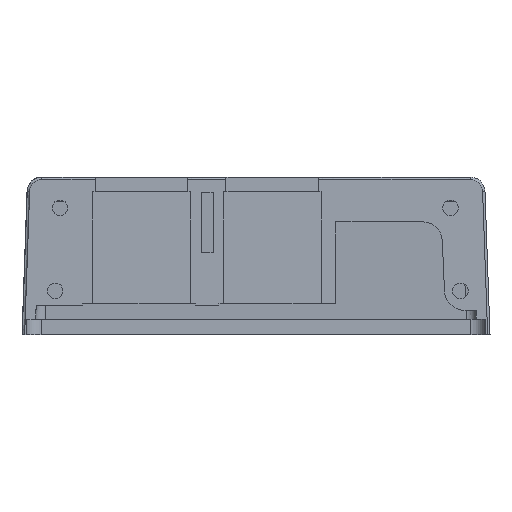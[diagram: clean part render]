
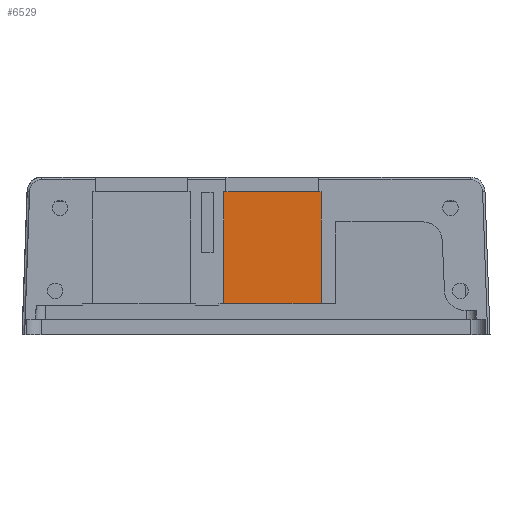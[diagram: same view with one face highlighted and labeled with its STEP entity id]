
A CAD part, left-side view. The second image highlights one B-rep face of the part: STEP entity #6529.
In plain terms, the highlighted planar face has unit normal (-1, 0, 0).
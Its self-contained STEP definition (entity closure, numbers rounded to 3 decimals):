
#722 = PLANE('',#723);
#723 = AXIS2_PLACEMENT_3D('',#724,#725,#726);
#724 = CARTESIAN_POINT('',(252.661,217.902,25.4));
#725 = DIRECTION('',(0.,0.,1.));
#726 = DIRECTION('',(1.,0.,0.));
#2483 = VERTEX_POINT('',#2484);
#2484 = CARTESIAN_POINT('',(319.,214.5,25.4));
#2498 = PLANE('',#2499);
#2499 = AXIS2_PLACEMENT_3D('',#2500,#2501,#2502);
#2500 = CARTESIAN_POINT('',(319.,214.5,51.));
#2501 = DIRECTION('',(0.,1.,0.));
#2502 = DIRECTION('',(-1.,0.,0.));
#2510 = EDGE_CURVE('',#2483,#2511,#2513,.T.);
#2511 = VERTEX_POINT('',#2512);
#2512 = CARTESIAN_POINT('',(319.,194.5,25.4));
#2513 = SURFACE_CURVE('',#2514,(#2518,#2525),.PCURVE_S1.);
#2514 = LINE('',#2515,#2516);
#2515 = CARTESIAN_POINT('',(319.,214.5,25.4));
#2516 = VECTOR('',#2517,1.);
#2517 = DIRECTION('',(0.,-1.,0.));
#2518 = PCURVE('',#722,#2519);
#2519 = DEFINITIONAL_REPRESENTATION('',(#2520),#2524);
#2520 = LINE('',#2521,#2522);
#2521 = CARTESIAN_POINT('',(66.339,-3.402));
#2522 = VECTOR('',#2523,1.);
#2523 = DIRECTION('',(0.,-1.));
#2524 = ( GEOMETRIC_REPRESENTATION_CONTEXT(2) 
PARAMETRIC_REPRESENTATION_CONTEXT() REPRESENTATION_CONTEXT('2D SPACE',''
  ) );
#2525 = PCURVE('',#2526,#2531);
#2526 = PLANE('',#2527);
#2527 = AXIS2_PLACEMENT_3D('',#2528,#2529,#2530);
#2528 = CARTESIAN_POINT('',(319.,214.5,51.));
#2529 = DIRECTION('',(-1.,0.,0.));
#2530 = DIRECTION('',(0.,-1.,0.));
#2531 = DEFINITIONAL_REPRESENTATION('',(#2532),#2536);
#2532 = LINE('',#2533,#2534);
#2533 = CARTESIAN_POINT('',(0.,-25.6));
#2534 = VECTOR('',#2535,1.);
#2535 = DIRECTION('',(1.,0.));
#2536 = ( GEOMETRIC_REPRESENTATION_CONTEXT(2) 
PARAMETRIC_REPRESENTATION_CONTEXT() REPRESENTATION_CONTEXT('2D SPACE',''
  ) );
#2554 = PLANE('',#2555);
#2555 = AXIS2_PLACEMENT_3D('',#2556,#2557,#2558);
#2556 = CARTESIAN_POINT('',(169.,194.5,51.));
#2557 = DIRECTION('',(0.,-1.,0.));
#2558 = DIRECTION('',(1.,0.,0.));
#4929 = PLANE('',#4930);
#4930 = AXIS2_PLACEMENT_3D('',#4931,#4932,#4933);
#4931 = CARTESIAN_POINT('',(2.,251.653,48.3));
#4932 = DIRECTION('',(0.,0.,1.));
#4933 = DIRECTION('',(0.968,-0.252,0.));
#6485 = VERTEX_POINT('',#6486);
#6486 = CARTESIAN_POINT('',(319.,194.5,48.3));
#6509 = EDGE_CURVE('',#6485,#2511,#6510,.T.);
#6510 = SURFACE_CURVE('',#6511,(#6515,#6522),.PCURVE_S1.);
#6511 = LINE('',#6512,#6513);
#6512 = CARTESIAN_POINT('',(319.,194.5,51.));
#6513 = VECTOR('',#6514,1.);
#6514 = DIRECTION('',(-0.,-0.,-1.));
#6515 = PCURVE('',#2554,#6516);
#6516 = DEFINITIONAL_REPRESENTATION('',(#6517),#6521);
#6517 = LINE('',#6518,#6519);
#6518 = CARTESIAN_POINT('',(150.,0.));
#6519 = VECTOR('',#6520,1.);
#6520 = DIRECTION('',(0.,-1.));
#6521 = ( GEOMETRIC_REPRESENTATION_CONTEXT(2) 
PARAMETRIC_REPRESENTATION_CONTEXT() REPRESENTATION_CONTEXT('2D SPACE',''
  ) );
#6522 = PCURVE('',#2526,#6523);
#6523 = DEFINITIONAL_REPRESENTATION('',(#6524),#6528);
#6524 = LINE('',#6525,#6526);
#6525 = CARTESIAN_POINT('',(20.,0.));
#6526 = VECTOR('',#6527,1.);
#6527 = DIRECTION('',(0.,-1.));
#6528 = ( GEOMETRIC_REPRESENTATION_CONTEXT(2) 
PARAMETRIC_REPRESENTATION_CONTEXT() REPRESENTATION_CONTEXT('2D SPACE',''
  ) );
#6529 = ADVANCED_FACE('',(#6530),#2526,.T.);
#6530 = FACE_BOUND('',#6531,.T.);
#6531 = EDGE_LOOP('',(#6532,#6555,#6576,#6577));
#6532 = ORIENTED_EDGE('',*,*,#6533,.F.);
#6533 = EDGE_CURVE('',#6534,#6485,#6536,.T.);
#6534 = VERTEX_POINT('',#6535);
#6535 = CARTESIAN_POINT('',(319.,214.5,48.3));
#6536 = SURFACE_CURVE('',#6537,(#6541,#6548),.PCURVE_S1.);
#6537 = LINE('',#6538,#6539);
#6538 = CARTESIAN_POINT('',(319.,233.076,48.3));
#6539 = VECTOR('',#6540,1.);
#6540 = DIRECTION('',(0.,-1.,0.));
#6541 = PCURVE('',#2526,#6542);
#6542 = DEFINITIONAL_REPRESENTATION('',(#6543),#6547);
#6543 = LINE('',#6544,#6545);
#6544 = CARTESIAN_POINT('',(-18.576,-2.7));
#6545 = VECTOR('',#6546,1.);
#6546 = DIRECTION('',(1.,0.));
#6547 = ( GEOMETRIC_REPRESENTATION_CONTEXT(2) 
PARAMETRIC_REPRESENTATION_CONTEXT() REPRESENTATION_CONTEXT('2D SPACE',''
  ) );
#6548 = PCURVE('',#4929,#6549);
#6549 = DEFINITIONAL_REPRESENTATION('',(#6550),#6554);
#6550 = LINE('',#6551,#6552);
#6551 = CARTESIAN_POINT('',(311.478,61.772));
#6552 = VECTOR('',#6553,1.);
#6553 = DIRECTION('',(0.252,-0.968));
#6554 = ( GEOMETRIC_REPRESENTATION_CONTEXT(2) 
PARAMETRIC_REPRESENTATION_CONTEXT() REPRESENTATION_CONTEXT('2D SPACE',''
  ) );
#6555 = ORIENTED_EDGE('',*,*,#6556,.T.);
#6556 = EDGE_CURVE('',#6534,#2483,#6557,.T.);
#6557 = SURFACE_CURVE('',#6558,(#6562,#6569),.PCURVE_S1.);
#6558 = LINE('',#6559,#6560);
#6559 = CARTESIAN_POINT('',(319.,214.5,51.));
#6560 = VECTOR('',#6561,1.);
#6561 = DIRECTION('',(-0.,-0.,-1.));
#6562 = PCURVE('',#2526,#6563);
#6563 = DEFINITIONAL_REPRESENTATION('',(#6564),#6568);
#6564 = LINE('',#6565,#6566);
#6565 = CARTESIAN_POINT('',(0.,0.));
#6566 = VECTOR('',#6567,1.);
#6567 = DIRECTION('',(0.,-1.));
#6568 = ( GEOMETRIC_REPRESENTATION_CONTEXT(2) 
PARAMETRIC_REPRESENTATION_CONTEXT() REPRESENTATION_CONTEXT('2D SPACE',''
  ) );
#6569 = PCURVE('',#2498,#6570);
#6570 = DEFINITIONAL_REPRESENTATION('',(#6571),#6575);
#6571 = LINE('',#6572,#6573);
#6572 = CARTESIAN_POINT('',(0.,0.));
#6573 = VECTOR('',#6574,1.);
#6574 = DIRECTION('',(0.,-1.));
#6575 = ( GEOMETRIC_REPRESENTATION_CONTEXT(2) 
PARAMETRIC_REPRESENTATION_CONTEXT() REPRESENTATION_CONTEXT('2D SPACE',''
  ) );
#6576 = ORIENTED_EDGE('',*,*,#2510,.T.);
#6577 = ORIENTED_EDGE('',*,*,#6509,.F.);
